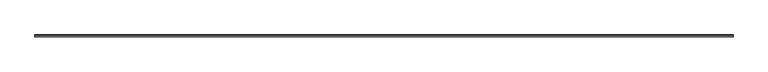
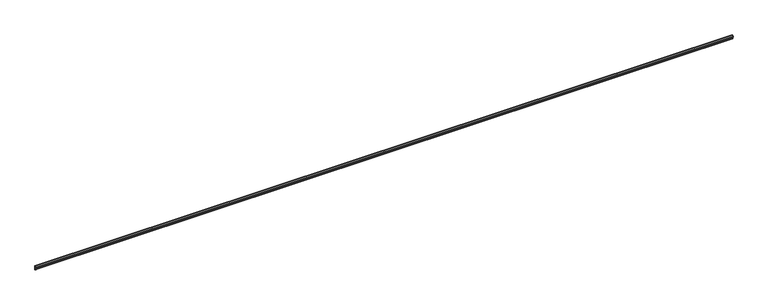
"""IFC4 building model written with IfcOpenShell, lengths in millimetres: proxy geometry, cornicione : cornicione."""

from ifc_helpers import new_model, si_unit, point, frame, frame_2d, origin, place, context, project, spatial, polyline, circle_curve, trimmed, segment, composite_curve, outline, extrude, source, transform, mapped, element, save


def generic_models_e7f895e9(model_context):
    return source(origin(), model_context, "Body", "SweptSolid", [
        extrude(outline(composite_curve([segment(polyline([(23913.3920265, -4176.8046286), (23913.3920265, -4579.4310793), (23900.4224882, -4579.4310793), (23900.4224882, -4566.8046286)]), True, "CONTINUOUS"), segment(trimmed(circle_curve(frame_2d((23912.3121965, -4495.8071629)), 71.9861466), [point((23900.4224882, -4566.8046286))], [point((23840.3462496, -4494.1019394))], False, "CARTESIAN"), True, "CONTINUOUS"), segment(polyline([(23840.3462496, -4494.1019394), (23827.719799, -4494.1019394), (23820.2169686, -4439.0846246)]), True, "CONTINUOUS"), segment(trimmed(circle_curve(frame_2d((23541.787328, -4488.9464104)), 282.8590858), [point((23820.2169686, -4439.0846246))], [point((23807.8453629, -4392.9131634))], True, "CARTESIAN"), True, "CONTINUOUS"), segment(trimmed(circle_curve(frame_2d((23674.4641791, -4441.0569008)), 141.8039479), [point((23807.8453629, -4392.9131634))], [point((23771.0693646, -4337.2503607))], True, "CARTESIAN"), True, "CONTINUOUS"), segment(trimmed(circle_curve(frame_2d((23801.2874715, -4297.4784616)), 49.9493538), [point((23771.0693646, -4337.2503607))], [point((23751.342663, -4296.8046286))], False, "CARTESIAN"), True, "CONTINUOUS"), segment(polyline([(23751.342663, -4296.8046286), (23733.3920265, -4296.8046286), (23733.3920265, -4193.6946592)]), True, "CONTINUOUS"), segment(trimmed(circle_curve(frame_2d((23846.4085988, -4547.6818788)), 371.5907659), [point((23733.3920265, -4193.6946592))], [point((23823.3920265, -4176.8046286))], False, "CARTESIAN"), True, "CONTINUOUS"), segment(polyline([(23823.3920265, -4176.8046286), (23913.3920265, -4176.8046286)]), True, "CONTINUOUS")], self_intersect=False)), frame((14122.3573777, 0.0, 0.0), z_axis=(1.0, 0.0, 0.0), x_axis=(0.0, 1.0, 0.0)), (0.0, 0.0, 1.0), 66440.0),
    ])


if __name__ == "__main__":
    model = new_model("IFC4")
    model_context = context("Model", 3, world=origin())
    ifc_project = project(units=[si_unit("LENGTHUNIT", "METRE", prefix="MILLI")], contexts=[model_context])
    site = spatial("IfcSite", under=ifc_project)
    building = spatial("IfcBuilding", under=site)
    placement = place(None, origin())
    generic_models_shape = generic_models_e7f895e9(model_context)
    element("IfcBuildingElementProxy", 1, Name="cornicione : cornicione", ObjectType="cornicione : cornicione", at=placement, inside=building, context=model_context, shape_type="MappedRepresentation", body=[
        mapped(generic_models_shape, transform((0.0, 0.0, 0.0), x_axis=(1.0, 0.0, 0.0), y_axis=(0.0, 1.0, 0.0), z_axis=(0.0, 0.0, 1.0))),
    ])
    save(model, "model.ifc")
